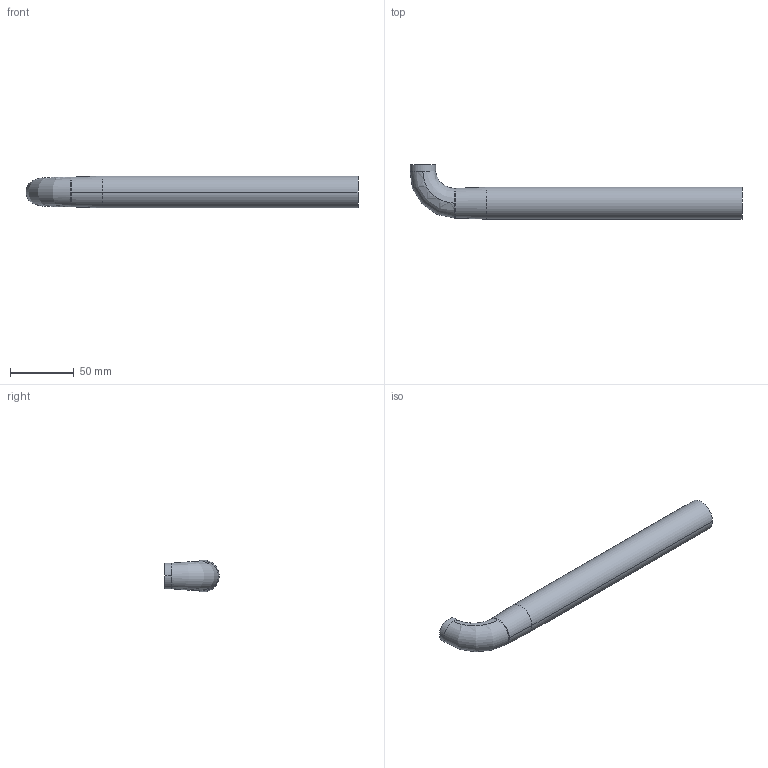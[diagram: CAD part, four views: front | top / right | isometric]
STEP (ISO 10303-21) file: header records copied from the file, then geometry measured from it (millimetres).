
FILE_DESCRIPTION( (''), '2;1');
FILE_NAME ('SY-2080-07_TB-25250-90-A.stp','2022-04-09T13:01:53',(''),(''),'spGate 18.9.3 (****-****-****-****)','','');
FILE_SCHEMA (('AUTOMOTIVE_DESIGN'));
Length unit declared in the file: millimetre
Products named in the file (19): Assembly; SY-2080-07_TB-25250-90-A-prt0; SY-2080-07_TB-25250-90-A-prt1; SY-2080-07_TB-25250-90-A-prt2; SY-2080-07_TB-25250-90-A-prt3; SY-2080-07_TB-25250-90-A-prt4; SY-2080-07_TB-25250-90-A-prt5; SY-2080-07_TB-25250-90-A-prt6; SY-2080-07_TB-25250-90-A-prt7; SY-2080-07_TB-25250-90-A-prt8; SY-2080-07_TB-25250-90-A-prt9; SY-2080-07_TB-25250-90-A-prt10; SY-2080-07_TB-25250-90-A-prt11; SY-2080-07_TB-25250-90-A-prt12; SY-2080-07_TB-25250-90-A-prt13; SY-2080-07_TB-25250-90-A-prt14; SY-2080-07_TB-25250-90-A-prt15; SY-2080-07_TB-25250-90-A-prt16; SY-2080-07_TB-25250-90-A-prt17
Assembly tree (18 placements, depth 2):
  Assembly
    SY-2080-07_TB-25250-90-A-prt0
    SY-2080-07_TB-25250-90-A-prt1
    SY-2080-07_TB-25250-90-A-prt2
    SY-2080-07_TB-25250-90-A-prt3
    SY-2080-07_TB-25250-90-A-prt4
    SY-2080-07_TB-25250-90-A-prt5
    SY-2080-07_TB-25250-90-A-prt6
    SY-2080-07_TB-25250-90-A-prt7
    SY-2080-07_TB-25250-90-A-prt8
    SY-2080-07_TB-25250-90-A-prt9
    SY-2080-07_TB-25250-90-A-prt10
    SY-2080-07_TB-25250-90-A-prt11
    SY-2080-07_TB-25250-90-A-prt12
    SY-2080-07_TB-25250-90-A-prt13
    SY-2080-07_TB-25250-90-A-prt14
    SY-2080-07_TB-25250-90-A-prt15
    SY-2080-07_TB-25250-90-A-prt16
    SY-2080-07_TB-25250-90-A-prt17
Bounding box: 260 x 42.5 x 25 mm (x, y, z)
Volume: 108310.7 mm3; surface area: 28960 mm2
Topology: 1 solids, 1 shells, 29 faces, 81 edges, 73 vertices
Faces by surface type: bspline 12, cylinder 12, plane 5
Entity records: 3008 total; most frequent: CARTESIAN_POINT 1317, DIRECTION 204, ORIENTED_EDGE 128, COLOUR_RGB 111, PRESENTATION_STYLE_ASSIGNMENT 111, STYLED_ITEM 111, AXIS2_PLACEMENT_3D 96, DRAUGHTING_PRE_DEFINED_CURVE_FONT 81
